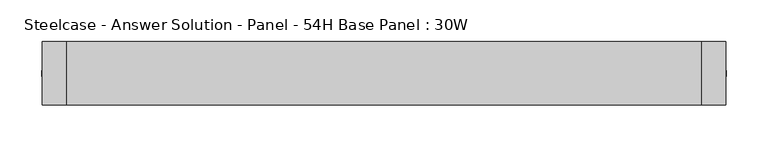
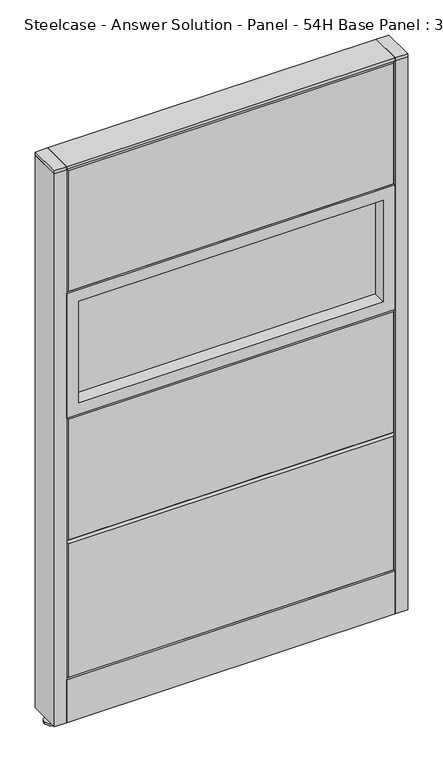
"""IFC4 building model written with IfcOpenShell, lengths in millimetres: furniture geometry, Steelcase - Answer Solution - Panel - 54H Base Panel : 30W."""

from ifc_helpers import new_model, si_unit, point, frame, frame_2d, origin, place, context, project, spatial, polyline, circle_curve, trimmed, segment, composite_curve, outline, extrude, faceted_brep, source, transform, mapped, element, save


def steelcase_answer_solution_panel_54h_base_panel_30w_4e65f22d(model_context):
    return source(origin(), model_context, "Body", "SolidModel", [
        extrude(outline(composite_curve([segment(trimmed(circle_curve(frame_2d((395.224, 0.0320214)), 5.08), [point((400.304, 0.0320214))], [point((390.144, 0.0320214))], False, "CARTESIAN"), True, "CONTINUOUS"), segment(trimmed(circle_curve(frame_2d((395.224, 0.0320214)), 5.08), [point((390.144, 0.0320214))], [point((400.304, 0.0320214))], False, "CARTESIAN"), True, "CONTINUOUS")], self_intersect=False)), frame((0.0, 0.0, 5.0799671), z_axis=(0.0, 0.0, 1.0), x_axis=(1.0, 0.0, 0.0)), (0.0, 0.0, 1.0), 10.414),
        extrude(outline(composite_curve([segment(trimmed(circle_curve(frame_2d((395.224, 0.0320214)), 15.24), [point((410.464, 0.0320214))], [point((379.984, 0.0320214))], False, "CARTESIAN"), True, "CONTINUOUS"), segment(trimmed(circle_curve(frame_2d((395.224, 0.0320214)), 15.24), [point((379.984, 0.0320214))], [point((410.464, 0.0320214))], False, "CARTESIAN"), True, "CONTINUOUS")], self_intersect=False)), frame((0.0, 0.0, -3.29e-05), z_axis=(0.0, 0.0, 1.0), x_axis=(1.0, 0.0, 0.0)), (0.0, 0.0, 1.0), 5.08),
        extrude(outline(polyline([(409.575, 38.1320408), (409.575, -38.0679592), (381.0, -38.0679592), (381.0, 38.1320408), (409.575, 38.1320408)])), frame((0.0, 0.0, 1370.6348), z_axis=(0.0, 0.0, 1.0), x_axis=(1.0, 0.0, 0.0)), (0.0, 0.0, 1.0), 7.3151671),
        extrude(outline(polyline([(409.575, 38.1320408), (409.575, -38.0679592), (381.0, -38.0679592), (381.0, 38.1320408), (409.575, 38.1320408)])), frame((0.0, 0.0, 15.4939671), z_axis=(0.0, 0.0, 1.0), x_axis=(1.0, 0.0, 0.0)), (0.0, 0.0, 1.0), 1355.1408329),
        extrude(outline(composite_curve([segment(trimmed(circle_curve(frame_2d((-395.224, 0.0320214)), 5.08), [point((-400.304, 0.0320214))], [point((-390.144, 0.0320214))], False, "CARTESIAN"), True, "CONTINUOUS"), segment(trimmed(circle_curve(frame_2d((-395.224, 0.0320214)), 5.08), [point((-390.144, 0.0320214))], [point((-400.304, 0.0320214))], False, "CARTESIAN"), True, "CONTINUOUS")], self_intersect=False)), frame((0.0, 0.0, 5.0799671), z_axis=(0.0, 0.0, 1.0), x_axis=(1.0, 0.0, 0.0)), (0.0, 0.0, 1.0), 10.414),
        extrude(outline(composite_curve([segment(trimmed(circle_curve(frame_2d((-395.224, 0.0320214)), 15.24), [point((-410.464, 0.0320214))], [point((-379.984, 0.0320214))], False, "CARTESIAN"), True, "CONTINUOUS"), segment(trimmed(circle_curve(frame_2d((-395.224, 0.0320214)), 15.24), [point((-379.984, 0.0320214))], [point((-410.464, 0.0320214))], False, "CARTESIAN"), True, "CONTINUOUS")], self_intersect=False)), frame((0.0, 0.0, -3.29e-05), z_axis=(0.0, 0.0, 1.0), x_axis=(1.0, 0.0, 0.0)), (0.0, 0.0, 1.0), 5.08),
        extrude(outline(polyline([(-409.575, 38.1320408), (-381.0, 38.1320408), (-381.0, -38.0679592), (-409.575, -38.0679592), (-409.575, 38.1320408)])), frame((0.0, 0.0, 1370.6348), z_axis=(0.0, 0.0, 1.0), x_axis=(1.0, 0.0, 0.0)), (0.0, 0.0, 1.0), 7.3151671),
        extrude(outline(polyline([(-409.575, 38.1320408), (-381.0, 38.1320408), (-381.0, -38.0679592), (-409.575, -38.0679592), (-409.575, 38.1320408)])), frame((0.0, 0.0, 15.4939671), z_axis=(0.0, 0.0, 1.0), x_axis=(1.0, 0.0, 0.0)), (0.0, 0.0, 1.0), 1355.1408329),
        extrude(outline(polyline([(-353.06, 6.346049), (353.06, 6.346049), (353.06, -6.353951), (-353.06, -6.353951), (-353.06, 6.346049)])), frame((0.0, 0.0, 789.94), z_axis=(0.0, 0.0, 1.0), x_axis=(1.0, 0.0, 0.0)), (0.0, 0.0, 1.0), 248.92),
        extrude(outline(polyline([(1066.8, -381.0), (762.0, -381.0), (762.0, 381.0), (1066.8, 381.0), (1066.8, -381.0)]), holes=[polyline([(1038.86, -353.06), (1038.86, 353.06), (789.94, 353.06), (789.94, -353.06), (1038.86, -353.06)])]), frame((0.0, -38.103951, 0.0), z_axis=(0.0, 1.0, 0.0), x_axis=(0.0, 0.0, 1.0)), (0.0, 0.0, 1.0), 76.2),
        faceted_brep([(-376.174, 38.1635011, 1366.774), (376.174, 38.1635011, 1366.774), (376.174, 38.1635011, 1071.626), (-376.174, 38.1635011, 1071.626), (-381.0, 33.3375011, 1371.6), (-381.0, 33.3375011, 1066.8), (381.0, 33.3375011, 1066.8), (381.0, 33.3375011, 1371.6)], [[[0, 1, 2, 3]], [[4, 5, 6, 7]], [[4, 7, 1, 0]], [[7, 6, 2, 1]], [[6, 5, 3, 2]], [[5, 4, 0, 3]]]),
        faceted_brep([(-376.174, 38.1635011, 757.174), (376.174, 38.1635011, 757.174), (376.174, 38.1635011, 462.026), (-376.174, 38.1635011, 462.026), (-381.0, 33.3375011, 762.0), (-381.0, 33.3375011, 457.2), (381.0, 33.3375011, 457.2), (381.0, 33.3375011, 762.0)], [[[0, 1, 2, 3]], [[4, 5, 6, 7]], [[4, 7, 1, 0]], [[7, 6, 2, 1]], [[6, 5, 3, 2]], [[5, 4, 0, 3]]]),
        faceted_brep([(-376.174, 38.1635011, 452.374), (376.174, 38.1635011, 452.374), (376.174, 38.1635011, 125.476), (-376.174, 38.1635011, 125.476), (-381.0, 33.3375011, 457.2), (-381.0, 33.3375011, 120.65), (381.0, 33.3375011, 120.65), (381.0, 33.3375011, 457.2)], [[[0, 1, 2, 3]], [[4, 5, 6, 7]], [[4, 7, 1, 0]], [[7, 6, 2, 1]], [[6, 5, 3, 2]], [[5, 4, 0, 3]]]),
        extrude(outline(polyline([(353.06, -6.346049), (-353.06, -6.346049), (-353.06, 6.353951), (353.06, 6.353951), (353.06, -6.346049)])), frame((0.0, 0.0, 789.94), z_axis=(0.0, 0.0, 1.0), x_axis=(1.0, 0.0, 0.0)), (0.0, 0.0, 1.0), 248.92),
        extrude(outline(polyline([(1066.8, 381.0), (1066.8, -381.0), (762.0, -381.0), (762.0, 381.0), (1066.8, 381.0)]), holes=[polyline([(1038.86, 353.06), (789.94, 353.06), (789.94, -353.06), (1038.86, -353.06), (1038.86, 353.06)])]), frame((0.0, -38.096049, 0.0), z_axis=(0.0, 1.0, 0.0), x_axis=(0.0, 0.0, 1.0)), (0.0, 0.0, 1.0), 76.2),
        faceted_brep([(376.174, -38.1635011, 1366.774), (-376.174, -38.1635011, 1366.774), (-376.174, -38.1635011, 1071.626), (376.174, -38.1635011, 1071.626), (381.0, -33.3375011, 1371.6), (381.0, -33.3375011, 1066.8), (-381.0, -33.3375011, 1066.8), (-381.0, -33.3375011, 1371.6)], [[[0, 1, 2, 3]], [[4, 5, 6, 7]], [[4, 7, 1, 0]], [[7, 6, 2, 1]], [[6, 5, 3, 2]], [[5, 4, 0, 3]]]),
        faceted_brep([(376.174, -38.1635011, 757.174), (-376.174, -38.1635011, 757.174), (-376.174, -38.1635011, 462.026), (376.174, -38.1635011, 462.026), (381.0, -33.3375011, 762.0), (381.0, -33.3375011, 457.2), (-381.0, -33.3375011, 457.2), (-381.0, -33.3375011, 762.0)], [[[0, 1, 2, 3]], [[4, 5, 6, 7]], [[4, 7, 1, 0]], [[7, 6, 2, 1]], [[6, 5, 3, 2]], [[5, 4, 0, 3]]]),
        faceted_brep([(376.174, -38.1635011, 452.374), (-376.174, -38.1635011, 452.374), (-376.174, -38.1635011, 125.476), (376.174, -38.1635011, 125.476), (381.0, -33.3375011, 457.2), (381.0, -33.3375011, 120.65), (-381.0, -33.3375011, 120.65), (-381.0, -33.3375011, 457.2)], [[[0, 1, 2, 3]], [[4, 5, 6, 7]], [[4, 7, 1, 0]], [[7, 6, 2, 1]], [[6, 5, 3, 2]], [[5, 4, 0, 3]]]),
        extrude(outline(polyline([(381.0, 38.1000194), (381.0, -38.1000194), (-381.0, -38.1000194), (-381.0, 38.1000194), (381.0, 38.1000194)])), frame((0.0, 0.0, 1371.6), z_axis=(0.0, 0.0, 1.0), x_axis=(1.0, 0.0, 0.0)), (0.0, 0.0, 1.0), 6.35),
        extrude(outline(polyline([(25.4000011, 119.8575157), (25.4000011, 120.65), (38.1000194, 120.65), (38.1000194, 15.494), (37.3075215, 15.494), (37.3075215, 119.8575157), (25.4000011, 119.8575157)])), frame((-381.0, 0.0, 0.0), z_axis=(1.0, 0.0, 0.0), x_axis=(0.0, 1.0, 0.0)), (0.0, 0.0, 1.0), 762.0),
        extrude(outline(polyline([(-25.4000011, 119.8575157), (-37.3075215, 119.8575157), (-37.3075215, 15.494), (-38.1000194, 15.494), (-38.1000194, 120.65), (-25.4000011, 120.65), (-25.4000011, 119.8575157)])), frame((-381.0, 0.0, 0.0), z_axis=(1.0, 0.0, 0.0), x_axis=(0.0, 1.0, 0.0)), (0.0, 0.0, 1.0), 762.0),
    ])


if __name__ == "__main__":
    model = new_model("IFC4")
    model_context = context("Model", 3, world=origin())
    ifc_project = project(units=[si_unit("LENGTHUNIT", "METRE", prefix="MILLI")], contexts=[model_context])
    site = spatial("IfcSite", under=ifc_project)
    building = spatial("IfcBuilding", under=site)
    placement = place(None, origin())
    steelcase_answer_solution_panel_54h_base_panel_30w_shape = steelcase_answer_solution_panel_54h_base_panel_30w_4e65f22d(model_context)
    element("IfcFurniture", 1, ObjectType="Steelcase - Answer Solution - Panel - 54H Base Panel : 30W", at=placement, inside=building, context=model_context, shape_type="MappedRepresentation", body=[
        mapped(steelcase_answer_solution_panel_54h_base_panel_30w_shape, transform((0.0, 0.0, 0.0), x_axis=(1.0, 0.0, 0.0), y_axis=(0.0, 1.0, 0.0), z_axis=(0.0, 0.0, 1.0))),
    ])
    save(model, "model.ifc")
